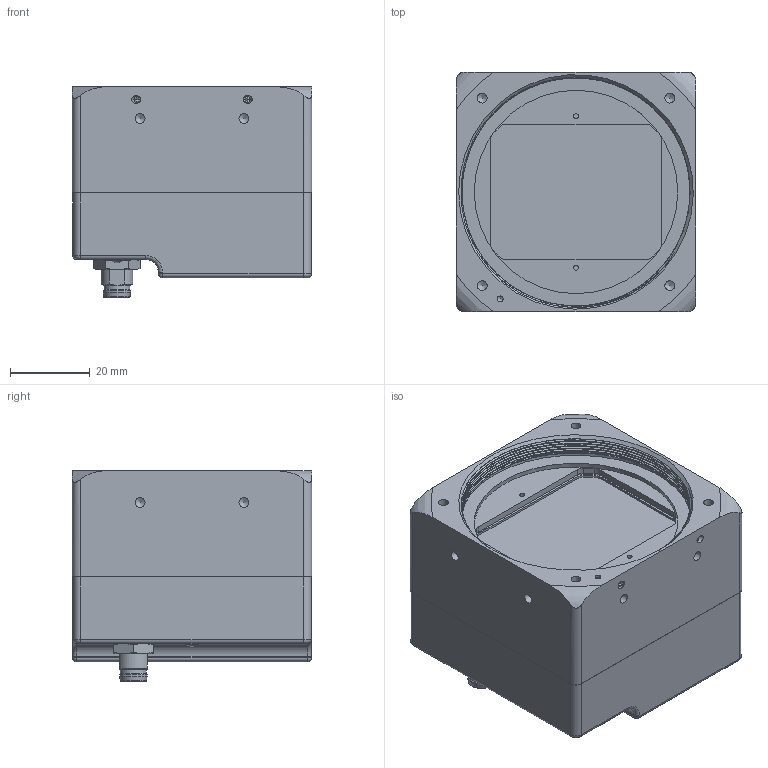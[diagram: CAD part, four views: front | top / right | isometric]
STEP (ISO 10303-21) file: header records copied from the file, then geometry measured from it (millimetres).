
FILE_DESCRIPTION( ( 'Unknown' ), '1' );
FILE_NAME( 'C:/Users/rih/Desktop/11188975_LXC-500M.stp', 'Unknown', ( 'Unknown' ), ( 'Unknown' ), 'PSStep 19.0.9', 'Unknown', ' ' );
FILE_SCHEMA( ( 'AUTOMOTIVE_DESIGN { 1 0 10303 214 1 1 1 1 }' ) );
Length unit declared in the file: millimetre
Products named in the file (147): 11035219
Bounding box: 60 x 60 x 52.85 mm (x, y, z)
Volume: 67937.9 mm3; surface area: 49359.8 mm2
Topology: 147 solids, 153 shells, 2859 faces, 6596 edges, 4447 vertices
Faces by surface type: plane 1867, cylinder 828, cone 84, extrusion 38, torus 22, sphere 11, bspline 9
Full cylindrical faces by diameter (mm): 0.46 x145, 0.5 x2, 0.6 x16, 0.7 x141, 0.75 x1, 1.221 x2, 1.27 x4, 1.45 x1, 1.567 x32, 1.65 x141, 2 x7, 2.4 x4, 2.459 x24, 2.8 x1, 2.92 x1, 3.4 x1, 3.8 x4, 4.3 x4, 6.5 x1, 6.9 x1, 9 x1, 9.3 x2, 15 x1, 51 x1, 58 x2
Entity records: 109409 total; most frequent: CARTESIAN_POINT 24231, DIRECTION 12770, ORIENTED_EDGE 11152, EDGE_CURVE 5576, AXIS2_PLACEMENT_3D 4691, VERTEX_POINT 4066, EDGE_LOOP 3918, FACE_OUTER_BOUND 3405
